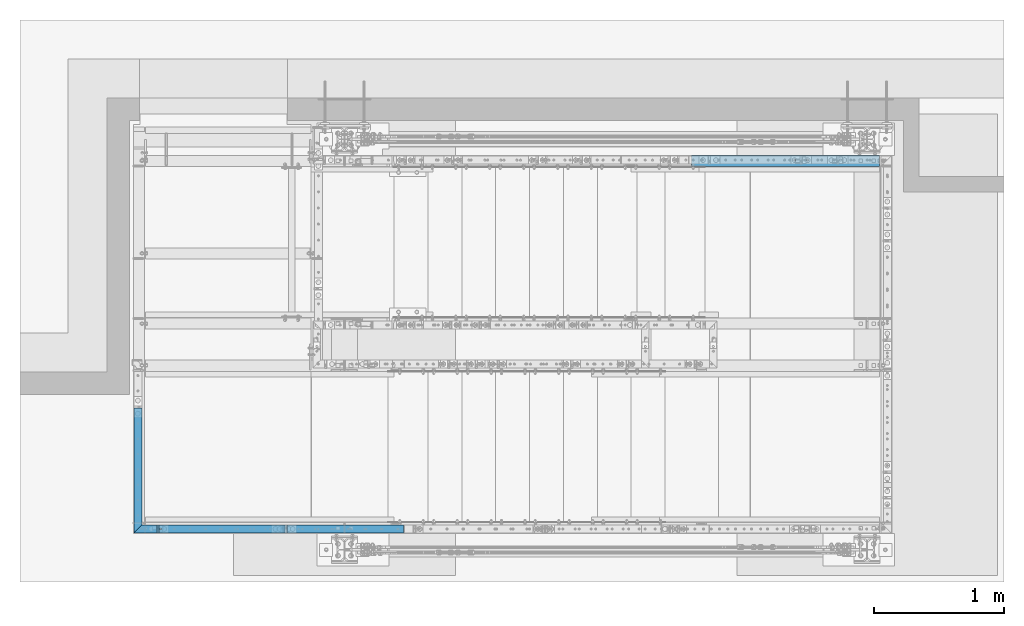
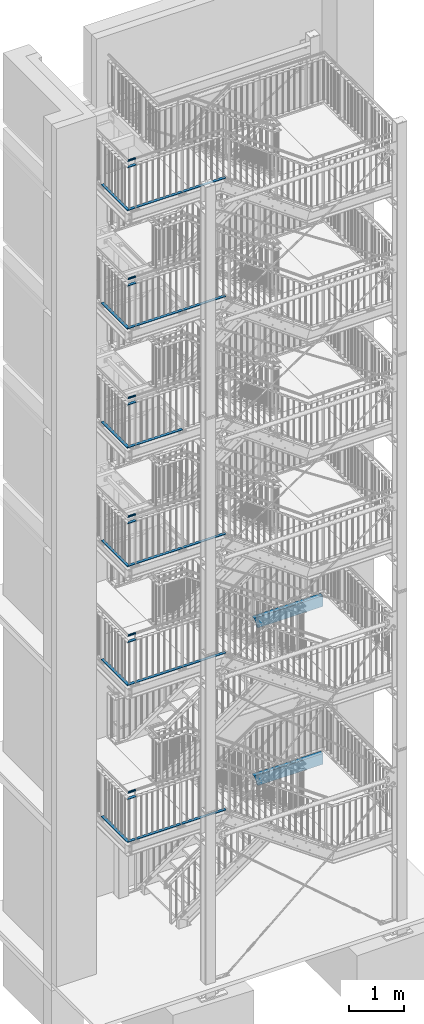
# One storey, part 134 of 831: 37 beams, 28 openings.
"""IFC2X3 building model written with IfcOpenShell, lengths in millimetres."""

from ifc_helpers import new_model, entity, si_unit, converted_unit, frame, frame_2d, origin, origin_with_axes, origin_2d, origin_2d_with_axis, place, context, project, spatial, polyline, rectangle, circle, hollow_circle, u_section, outline, extrude, clip, halfspace, material, element, save


model = new_model("IFC2X3")

# Units and contexts
model_context = context("Model", 3, precision=1e-09, world=origin_with_axes())
ifc_project = project(units=[si_unit("LENGTHUNIT", "METRE", prefix="MILLI"), si_unit("AREAUNIT", "SQUARE_METRE"), si_unit("VOLUMEUNIT", "CUBIC_METRE"), converted_unit("PLANEANGLEUNIT", "DEGREE", entity("IfcPlaneAngleMeasure", 0.01745329), si_unit("PLANEANGLEUNIT", "RADIAN"), dimensions=[0, 0, 0, 0, 0, 0, 0])], contexts=[model_context])

# Site, building, storey
site_placement = place(None, origin_with_axes())
site = spatial("IfcSite", under=ifc_project, at=site_placement, Name="Site", CompositionType="ELEMENT")
building_placement = place(site_placement, origin_with_axes())
building = spatial("IfcBuilding", under=site, at=building_placement, Name="Struktur 1", CompositionType="ELEMENT")
storey_placement = place(building_placement, origin_with_axes())
storey = spatial("IfcBuildingStorey", under=building, at=storey_placement, Name="Default Storey", CompositionType="ELEMENT", Elevation=0.0)

# Beam
ifc_material = material(Name="S235JR")
beam_1_placement = place(None, frame((5311.407355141, 4526.736971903, 15279.0), z_axis=(1.0, 0.0, 0.0), x_axis=(0.0, 0.0, -1.0)))
element("IfcBeam", 1, at=beam_1_placement, inside=storey, material=ifc_material, Name="Railing_Kneerail_Landing#18", ObjectType="Railing_Kneerail_Landing#18", context=model_context, shape_type="SweptSolid", body=[
    extrude(rectangle(XDim=10.0, YDim=60.0, at=origin_2d()), origin(), (0.0, 0.0, -1.0), 894.115666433),
])

# Beam, openings
beam_2_placement = place(None, frame((4402.291688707, 4526.736971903, 15279.0), z_axis=(1.0, 0.0, 0.0), x_axis=(0.0, 0.0, -1.0)))
beam_2 = element("IfcBeam", 2, at=beam_2_placement, inside=storey, material=ifc_material, Name="Railing_Kneerail_Landing#19", ObjectType="Railing_Kneerail_Landing#19", context=model_context, shape_type="SweptSolid", body=[
    extrude(rectangle(XDim=10.0, YDim=60.0, at=origin_2d()), origin(), (0.0, 0.0, -1.0), 967.000142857),
])
opening_1_placement = place(beam_2_placement, frame((60.0, 0.0, -967.000142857), z_axis=(-1.0, 0.0, 0.0), x_axis=(0.0, 0.0, 1.0)))
element("IfcOpeningElement", 3, at=opening_1_placement, cuts=beam_2, ObjectType="Opening", context=model_context, shape_type="SweptSolid", body=[
    extrude(outline(polyline([(977.499142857, 30.001), (977.499142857, -30.001), (992.501142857, -30.001), (992.501142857, 30.001), (977.499142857, 30.001)])), origin(), (0.0, 0.0, 1.0), 120.0),
])
opening_2_placement = place(beam_2_placement, frame((5.5, 0.0, -955.000142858), z_axis=(-1.0, 0.0, 0.0), x_axis=(0.0, 0.0, 1.0)))
element("IfcOpeningElement", 4, at=opening_2_placement, cuts=beam_2, ObjectType="Opening", context=model_context, shape_type="SweptSolid", body=[
    extrude(circle(Radius=5.001, at=origin_2d_with_axis()), origin(), (0.0, 0.0, 1.0), 11.0),
])

# Beam
beam_3_placement = place(None, frame((3417.29154585, 4526.736971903, 15279.0), z_axis=(1.0, 0.0, 0.0), x_axis=(0.0, 0.0, -1.0)))
element("IfcBeam", 5, at=beam_3_placement, inside=storey, material=ifc_material, Name="Railing_Kneerail_Landing#20", ObjectType="Railing_Kneerail_Landing#20", context=model_context, shape_type="Clipping", body=[
    clip(extrude(rectangle(XDim=10.0, YDim=60.0, at=origin_2d()), origin(), (0.0, 0.0, -1.0), 188.589769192), halfspace(frame((15279.0, -3899.225894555, -4044.802623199), z_axis=(0.0, -0.707106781, 0.707106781), x_axis=(0.0, 0.707106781, 0.707106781)), True)),
])

# Beam, opening
beam_4_placement = place(None, frame((3271.713402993, 4483.725345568, 15279.0), z_axis=(0.0, -1.0, 0.0), x_axis=(0.0, 0.0, -1.0)))
beam_4 = element("IfcBeam", 6, at=beam_4_placement, inside=storey, material=ifc_material, Name="Railing_Kneerail_Landing#21", ObjectType="Railing_Kneerail_Landing#21", context=model_context, shape_type="Clipping", body=[
    clip(extrude(rectangle(XDim=10.0, YDim=60.0, at=origin_2d()), origin(), (0.0, 0.0, -1.0), 978.013626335), halfspace(frame((15279.0, -3899.225894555, 3856.212854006), z_axis=(0.0, -0.707106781, -0.707106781), x_axis=(0.0, -0.707106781, 0.707106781)), True)),
])
opening_3_placement = place(beam_4_placement, frame((60.0, 0.0, -978.013626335), z_axis=(-1.0, 0.0, 0.0), x_axis=(0.0, 1.0, 0.0)))
element("IfcOpeningElement", 7, at=opening_3_placement, cuts=beam_4, ObjectType="Opening", context=model_context, shape_type="SweptSolid", body=[
    extrude(outline(polyline([(30.001, 7.501), (-30.001, 7.501), (-30.001, -7.501), (30.001, -7.501), (30.001, 7.501)])), origin(), (0.0, 0.0, 1.0), 120.0),
])

# Beam
beam_5_placement = place(None, frame((5311.633939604, 4526.736971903, 17899.0), z_axis=(1.0, 0.0, 0.0), x_axis=(0.0, 0.0, -1.0)))
element("IfcBeam", 8, at=beam_5_placement, inside=storey, material=ifc_material, Name="Railing_Kneerail_Landing#18", ObjectType="Railing_Kneerail_Landing#18", context=model_context, shape_type="SweptSolid", body=[
    extrude(rectangle(XDim=10.0, YDim=60.0, at=origin_2d()), origin(), (0.0, 0.0, -1.0), 894.342250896),
])

# Beam, openings
beam_6_placement = place(None, frame((4402.291688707, 4526.736971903, 17899.0), z_axis=(1.0, 0.0, 0.0), x_axis=(0.0, 0.0, -1.0)))
beam_6 = element("IfcBeam", 9, at=beam_6_placement, inside=storey, material=ifc_material, Name="Railing_Kneerail_Landing#19", ObjectType="Railing_Kneerail_Landing#19", context=model_context, shape_type="SweptSolid", body=[
    extrude(rectangle(XDim=10.0, YDim=60.0, at=origin_2d()), origin(), (0.0, 0.0, -1.0), 967.000142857),
])
opening_4_placement = place(beam_6_placement, frame((60.0, 0.0, -967.000142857), z_axis=(-1.0, 0.0, 0.0), x_axis=(0.0, 0.0, 1.0)))
element("IfcOpeningElement", 10, at=opening_4_placement, cuts=beam_6, ObjectType="Opening", context=model_context, shape_type="SweptSolid", body=[
    extrude(outline(polyline([(977.499142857, 30.001), (977.499142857, -30.001), (992.501142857, -30.001), (992.501142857, 30.001), (977.499142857, 30.001)])), origin(), (0.0, 0.0, 1.0), 120.0),
])
opening_5_placement = place(beam_6_placement, frame((5.5, 0.0, -955.000142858), z_axis=(-1.0, 0.0, 0.0), x_axis=(0.0, 0.0, 1.0)))
element("IfcOpeningElement", 11, at=opening_5_placement, cuts=beam_6, ObjectType="Opening", context=model_context, shape_type="SweptSolid", body=[
    extrude(circle(Radius=5.001, at=origin_2d_with_axis()), origin(), (0.0, 0.0, 1.0), 11.0),
])

# Beam
beam_7_placement = place(None, frame((3417.29154585, 4526.736971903, 17899.0), z_axis=(1.0, 0.0, 0.0), x_axis=(0.0, 0.0, -1.0)))
element("IfcBeam", 12, at=beam_7_placement, inside=storey, material=ifc_material, Name="Railing_Kneerail_Landing#20", ObjectType="Railing_Kneerail_Landing#20", context=model_context, shape_type="Clipping", body=[
    clip(extrude(rectangle(XDim=10.0, YDim=60.0, at=origin_2d()), origin(), (0.0, 0.0, -1.0), 188.589769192), halfspace(frame((17899.0, -3899.225894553, -4044.802623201), z_axis=(0.0, -0.707106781, 0.707106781), x_axis=(0.0, 0.707106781, 0.707106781)), True)),
])

# Beam, opening
beam_8_placement = place(None, frame((3271.713402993, 4483.725345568, 17899.0), z_axis=(0.0, -1.0, 0.0), x_axis=(0.0, 0.0, -1.0)))
beam_8 = element("IfcBeam", 13, at=beam_8_placement, inside=storey, material=ifc_material, Name="Railing_Kneerail_Landing#21", ObjectType="Railing_Kneerail_Landing#21", context=model_context, shape_type="Clipping", body=[
    clip(extrude(rectangle(XDim=10.0, YDim=60.0, at=origin_2d()), origin(), (0.0, 0.0, -1.0), 978.013626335), halfspace(frame((17898.999999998, -3899.225894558, 3856.212854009), z_axis=(0.0, -0.707106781, -0.707106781), x_axis=(0.0, -0.707106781, 0.707106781)), True)),
])
opening_6_placement = place(beam_8_placement, frame((60.0, 0.0, -978.013626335), z_axis=(-1.0, 0.0, 0.0), x_axis=(0.0, 1.0, 0.0)))
element("IfcOpeningElement", 14, at=opening_6_placement, cuts=beam_8, ObjectType="Opening", context=model_context, shape_type="SweptSolid", body=[
    extrude(outline(polyline([(30.001, 7.501), (-30.001, 7.501), (-30.001, -7.501), (30.001, -7.501), (30.001, 7.501)])), origin(), (0.0, 0.0, 1.0), 120.0),
])

# Beams
beam_9_placement = place(None, frame((3432.29154585, 4526.736971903, 18847.8), z_axis=(1.0, 0.0, 0.0), x_axis=(0.0, 0.0, -1.0)))
element("IfcBeam", 15, at=beam_9_placement, inside=storey, material=ifc_material, Name="Railing_Kneerail_Landing#1018", ObjectType="Railing_Kneerail_Landing#1018", context=model_context, shape_type="Clipping", body=[
    clip(extrude(rectangle(XDim=10.0, YDim=60.0, at=origin_2d()), origin(), (0.0, 0.0, -1.0), 203.589769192), halfspace(frame((18847.8, -3899.225894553, -4059.802623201), z_axis=(0.0, -0.707106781, 0.707106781), x_axis=(0.0, 0.707106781, 0.707106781)), True)),
])
beam_10_placement = place(None, frame((3432.29154585, 4535.536971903, 18974.0), z_axis=(1.0, 0.0, 0.0), x_axis=(0.0, 0.0, -1.0)))
element("IfcBeam", 16, at=beam_10_placement, inside=storey, material=ifc_material, Name="Railing_Handrail_Landing#8", ObjectType="Railing_Handrail_Landing#8", context=model_context, shape_type="Clipping", body=[
    clip(extrude(hollow_circle(Radius=21.2, WallThickness=3.2, at=origin_2d()), origin(), (0.0, 0.0, -1.0), 194.178142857), halfspace(frame((18974.0, -3908.025894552, -4059.802623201), z_axis=(0.0, -0.707106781, 0.707106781), x_axis=(0.0, 0.707106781, 0.707106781)), True)),
])
beam_11_placement = place(None, frame((3432.29154585, 4526.736971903, 16227.8), z_axis=(1.0, 0.0, 0.0), x_axis=(0.0, 0.0, -1.0)))
element("IfcBeam", 17, at=beam_11_placement, inside=storey, material=ifc_material, Name="Railing_Kneerail_Landing#1020", ObjectType="Railing_Kneerail_Landing#1020", context=model_context, shape_type="Clipping", body=[
    clip(extrude(rectangle(XDim=10.0, YDim=60.0, at=origin_2d()), origin(), (0.0, 0.0, -1.0), 203.589769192), halfspace(frame((16227.8, -3899.225894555, -4059.802623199), z_axis=(0.0, -0.707106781, 0.707106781), x_axis=(0.0, 0.707106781, 0.707106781)), True)),
])
beam_12_placement = place(None, frame((3432.29154585, 4535.536971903, 16354.0), z_axis=(1.0, 0.0, 0.0), x_axis=(0.0, 0.0, -1.0)))
element("IfcBeam", 18, at=beam_12_placement, inside=storey, material=ifc_material, Name="Railing_Handrail_Landing#8", ObjectType="Railing_Handrail_Landing#8", context=model_context, shape_type="Clipping", body=[
    clip(extrude(hollow_circle(Radius=21.2, WallThickness=3.2, at=origin_2d()), origin(), (0.0, 0.0, -1.0), 194.178142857), halfspace(frame((16354.0, -3908.025894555, -4059.802623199), z_axis=(0.0, -0.707106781, 0.707106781), x_axis=(0.0, 0.707106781, 0.707106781)), True)),
])
beam_13_placement = place(None, frame((3432.29154585, 4526.736971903, 13592.8), z_axis=(1.0, 0.0, 0.0), x_axis=(0.0, 0.0, -1.0)))
element("IfcBeam", 19, at=beam_13_placement, inside=storey, material=ifc_material, Name="Railing_Kneerail_Landing#1018", ObjectType="Railing_Kneerail_Landing#1018", context=model_context, shape_type="Clipping", body=[
    clip(extrude(rectangle(XDim=10.0, YDim=60.0, at=origin_2d()), origin(), (0.0, 0.0, -1.0), 203.589769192), halfspace(frame((13592.8, -3899.225894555, -4059.802623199), z_axis=(0.0, -0.707106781, 0.707106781), x_axis=(0.0, 0.707106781, 0.707106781)), True)),
])
beam_14_placement = place(None, frame((3432.29154585, 4535.536971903, 13719.0), z_axis=(1.0, 0.0, 0.0), x_axis=(0.0, 0.0, -1.0)))
element("IfcBeam", 20, at=beam_14_placement, inside=storey, material=ifc_material, Name="Railing_Handrail_Landing#8", ObjectType="Railing_Handrail_Landing#8", context=model_context, shape_type="Clipping", body=[
    clip(extrude(hollow_circle(Radius=21.2, WallThickness=3.2, at=origin_2d()), origin(), (0.0, 0.0, -1.0), 194.178142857), halfspace(frame((13719.0, -3908.025894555, -4059.802623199), z_axis=(0.0, -0.707106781, 0.707106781), x_axis=(0.0, 0.707106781, 0.707106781)), True)),
])
beam_15_placement = place(None, frame((3432.29154585, 4526.736971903, 10965.8), z_axis=(1.0, 0.0, 0.0), x_axis=(0.0, 0.0, -1.0)))
element("IfcBeam", 21, at=beam_15_placement, inside=storey, material=ifc_material, Name="Railing_Kneerail_Landing#1020", ObjectType="Railing_Kneerail_Landing#1020", context=model_context, shape_type="Clipping", body=[
    clip(extrude(rectangle(XDim=10.0, YDim=60.0, at=origin_2d()), origin(), (0.0, 0.0, -1.0), 203.589769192), halfspace(frame((10965.8, -3899.225894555, -4059.802623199), z_axis=(0.0, -0.707106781, 0.707106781), x_axis=(0.0, 0.707106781, 0.707106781)), True)),
])
beam_16_placement = place(None, frame((3432.29154585, 4535.536971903, 11092.0), z_axis=(1.0, 0.0, 0.0), x_axis=(0.0, 0.0, -1.0)))
element("IfcBeam", 22, at=beam_16_placement, inside=storey, material=ifc_material, Name="Railing_Handrail_Landing#8", ObjectType="Railing_Handrail_Landing#8", context=model_context, shape_type="Clipping", body=[
    clip(extrude(hollow_circle(Radius=21.2, WallThickness=3.2, at=origin_2d()), origin(), (0.0, 0.0, -1.0), 194.178142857), halfspace(frame((11092.0, -3908.025894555, -4059.802623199), z_axis=(0.0, -0.707106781, 0.707106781), x_axis=(0.0, 0.707106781, 0.707106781)), True)),
])
beam_17_placement = place(None, frame((3432.29154585, 4526.736971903, 8333.8), z_axis=(1.0, 0.0, 0.0), x_axis=(0.0, 0.0, -1.0)))
element("IfcBeam", 23, at=beam_17_placement, inside=storey, material=ifc_material, Name="Railing_Kneerail_Landing#1018", ObjectType="Railing_Kneerail_Landing#1018", context=model_context, shape_type="Clipping", body=[
    clip(extrude(rectangle(XDim=10.0, YDim=60.0, at=origin_2d()), origin(), (0.0, 0.0, -1.0), 203.589769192), halfspace(frame((8333.8, -3899.225894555, -4059.802623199), z_axis=(0.0, -0.707106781, 0.707106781), x_axis=(0.0, 0.707106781, 0.707106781)), True)),
])
beam_18_placement = place(None, frame((3432.29154585, 4535.536971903, 8460.0), z_axis=(1.0, 0.0, 0.0), x_axis=(0.0, 0.0, -1.0)))
element("IfcBeam", 24, at=beam_18_placement, inside=storey, material=ifc_material, Name="Railing_Handrail_Landing#8", ObjectType="Railing_Handrail_Landing#8", context=model_context, shape_type="Clipping", body=[
    clip(extrude(hollow_circle(Radius=21.2, WallThickness=3.2, at=origin_2d()), origin(), (0.0, 0.0, -1.0), 194.178142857), halfspace(frame((8460.0, -3908.025894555, -4059.802623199), z_axis=(0.0, -0.707106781, 0.707106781), x_axis=(0.0, 0.707106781, 0.707106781)), True)),
])
beam_19_placement = place(None, frame((3432.288520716, 4526.736971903, 4860.8), z_axis=(1.0, 0.0, 0.0), x_axis=(0.0, 0.0, -1.0)))
element("IfcBeam", 25, at=beam_19_placement, inside=storey, material=ifc_material, Name="Railing_Kneerail_Landing#1018", ObjectType="Railing_Kneerail_Landing#1018", context=model_context, shape_type="Clipping", body=[
    clip(extrude(rectangle(XDim=10.0, YDim=60.0, at=origin_2d()), origin(), (0.0, 0.0, -1.0), 203.586744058), halfspace(frame((4860.8, -3899.225894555, -4059.799598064), z_axis=(0.0, -0.707106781, 0.707106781), x_axis=(0.0, 0.707106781, 0.707106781)), True)),
])
beam_20_placement = place(None, frame((3432.288520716, 4535.536971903, 4987.0), z_axis=(1.0, 0.0, 0.0), x_axis=(0.0, 0.0, -1.0)))
element("IfcBeam", 26, at=beam_20_placement, inside=storey, material=ifc_material, Name="Railing_Handrail_Landing#7", ObjectType="Railing_Handrail_Landing#7", context=model_context, shape_type="Clipping", body=[
    clip(extrude(hollow_circle(Radius=21.2, WallThickness=3.2, at=origin_2d()), origin(), (0.0, 0.0, -1.0), 194.175117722), halfspace(frame((4987.0, -3908.025894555, -4059.799598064), z_axis=(0.0, -0.707106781, 0.707106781), x_axis=(0.0, 0.707106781, 0.707106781)), True)),
])
beam_21_placement = place(None, frame((5312.074200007, 4526.736971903, 3912.0), z_axis=(1.0, 0.0, 0.0), x_axis=(0.0, 0.0, -1.0)))
element("IfcBeam", 27, at=beam_21_placement, inside=storey, material=ifc_material, Name="Railing_Kneerail_Landing#16", ObjectType="Railing_Kneerail_Landing#16", context=model_context, shape_type="SweptSolid", body=[
    extrude(rectangle(XDim=10.0, YDim=60.0, at=origin_2d()), origin(), (0.0, 0.0, -1.0), 926.708561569),
])

# Beam, openings
beam_22_placement = place(None, frame((4370.365638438, 4526.736971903, 3912.0), z_axis=(1.0, 0.0, 0.0), x_axis=(0.0, 0.0, -1.0)))
beam_22 = element("IfcBeam", 28, at=beam_22_placement, inside=storey, material=ifc_material, Name="Railing_Kneerail_Landing#17", ObjectType="Railing_Kneerail_Landing#17", context=model_context, shape_type="SweptSolid", body=[
    extrude(rectangle(XDim=10.0, YDim=60.0, at=origin_2d()), origin(), (0.0, 0.0, -1.0), 935.077117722),
])
opening_7_placement = place(beam_22_placement, frame((60.0, 0.0, -935.077117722), z_axis=(-1.0, 0.0, 0.0), x_axis=(0.0, 0.0, 1.0)))
element("IfcOpeningElement", 29, at=opening_7_placement, cuts=beam_22, ObjectType="Opening", context=model_context, shape_type="SweptSolid", body=[
    extrude(outline(polyline([(945.576117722, 30.001), (945.576117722, -30.001), (960.578117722, -30.001), (960.578117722, 30.001), (945.576117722, 30.001)])), origin(), (0.0, 0.0, 1.0), 120.0),
])
opening_8_placement = place(beam_22_placement, frame((5.5, 0.0, -923.077117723), z_axis=(-1.0, 0.0, 0.0), x_axis=(0.0, 0.0, 1.0)))
element("IfcOpeningElement", 30, at=opening_8_placement, cuts=beam_22, ObjectType="Opening", context=model_context, shape_type="SweptSolid", body=[
    extrude(circle(Radius=5.001, at=origin_2d_with_axis()), origin(), (0.0, 0.0, 1.0), 11.0),
])

# Beam
beam_23_placement = place(None, frame((3417.288520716, 4526.736971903, 3912.0), z_axis=(1.0, 0.0, 0.0), x_axis=(0.0, 0.0, -1.0)))
element("IfcBeam", 31, at=beam_23_placement, inside=storey, material=ifc_material, Name="Railing_Kneerail_Landing#18", ObjectType="Railing_Kneerail_Landing#18", context=model_context, shape_type="Clipping", body=[
    clip(extrude(rectangle(XDim=10.0, YDim=60.0, at=origin_2d()), origin(), (0.0, 0.0, -1.0), 188.586744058), halfspace(frame((3912.0, -3899.225894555, -4044.799598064), z_axis=(0.0, -0.707106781, 0.707106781), x_axis=(0.0, 0.707106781, 0.707106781)), True)),
])

# Beam, opening
beam_24_placement = place(None, frame((3271.713402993, 4483.725345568, 3912.0), z_axis=(0.0, -1.0, 0.0), x_axis=(0.0, 0.0, -1.0)))
beam_24 = element("IfcBeam", 32, at=beam_24_placement, inside=storey, material=ifc_material, Name="Railing_Kneerail_Landing#19", ObjectType="Railing_Kneerail_Landing#19", context=model_context, shape_type="Clipping", body=[
    clip(extrude(rectangle(XDim=10.0, YDim=60.0, at=origin_2d()), origin(), (0.0, 0.0, -1.0), 978.013626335), halfspace(frame((3912.0, -3899.225894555, 3856.212854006), z_axis=(0.0, -0.707106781, -0.707106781), x_axis=(0.0, -0.707106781, 0.707106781)), True)),
])
opening_9_placement = place(beam_24_placement, frame((60.0, 0.0, -978.013626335), z_axis=(-1.0, 0.0, 0.0), x_axis=(0.0, 1.0, 0.0)))
element("IfcOpeningElement", 33, at=opening_9_placement, cuts=beam_24, ObjectType="Opening", context=model_context, shape_type="SweptSolid", body=[
    extrude(outline(polyline([(30.001, 7.501), (-30.001, 7.501), (-30.001, -7.501), (30.001, -7.501), (30.001, 7.501)])), origin(), (0.0, 0.0, 1.0), 120.0),
])

# Beam, openings
beam_25_placement = place(None, frame((7260.434507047, 7329.036971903, 5554.8947367), z_axis=(1.0, 0.0, 0.0), x_axis=(0.0, 1.0, 0.0)))
beam_25 = element("IfcBeam", 34, at=beam_25_placement, inside=storey, material=ifc_material, Name="Stringer", ObjectType="Stringer", context=model_context, shape_type="Clipping", body=[
    clip(clip(extrude(u_section(Depth=240.0, FlangeWidth=85.0, WebThickness=9.5, FlangeThickness=13.0, FilletRadius=13.0, EdgeRadius=6.5, FlangeSlope=4.574, at=frame_2d((20.2, 0.0))), origin(), (0.0, 0.0, 1.0), 1958.582666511), halfspace(frame((-7329.036971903, -5554.8947367, 1701.277895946), z_axis=(0.0, 0.0, -1.0), x_axis=(-1.0, 0.0, 0.0)), True)), halfspace(frame((-7329.036971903, -2876.228700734, 1207.214407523), z_axis=(0.0, 0.301609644, 0.953431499), x_axis=(1.0, 0.0, 0.0)), True)),
])
opening_10_placement = place(beam_25_placement, frame((27.7, 120.5, 1424.278467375), z_axis=(0.0, 1.0, 0.0), x_axis=(-1.0, 0.0, 0.0)))
element("IfcOpeningElement", 35, at=opening_10_placement, cuts=beam_25, ObjectType="Opening", context=model_context, shape_type="SweptSolid", body=[
    extrude(circle(Radius=7.001, at=frame_2d((0.0, 7.001), x_axis=(1.0, 0.0))), origin(), (0.0, 0.0, -1.0), 14.0),
])
opening_11_placement = place(beam_25_placement, frame((27.7, 120.5, 1324.278467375), z_axis=(0.0, 1.0, 0.0), x_axis=(-1.0, 0.0, 0.0)))
element("IfcOpeningElement", 36, at=opening_11_placement, cuts=beam_25, ObjectType="Opening", context=model_context, shape_type="SweptSolid", body=[
    extrude(circle(Radius=7.001, at=frame_2d((0.0, 7.001), x_axis=(1.0, 0.0))), origin(), (0.0, 0.0, -1.0), 14.0),
])
opening_12_placement = place(beam_25_placement, frame((27.7, 120.5, 439.278324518), z_axis=(0.0, 1.0, 0.0), x_axis=(-1.0, 0.0, 0.0)))
element("IfcOpeningElement", 37, at=opening_12_placement, cuts=beam_25, ObjectType="Opening", context=model_context, shape_type="SweptSolid", body=[
    extrude(circle(Radius=7.001, at=frame_2d((0.0, 7.001), x_axis=(1.0, 0.0))), origin(), (0.0, 0.0, -1.0), 14.0),
])
opening_13_placement = place(beam_25_placement, frame((27.7, 120.5, 339.278324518), z_axis=(0.0, 1.0, 0.0), x_axis=(-1.0, 0.0, 0.0)))
element("IfcOpeningElement", 38, at=opening_13_placement, cuts=beam_25, ObjectType="Opening", context=model_context, shape_type="SweptSolid", body=[
    extrude(circle(Radius=7.001, at=frame_2d((0.0, 7.001), x_axis=(1.0, 0.0))), origin(), (0.0, 0.0, -1.0), 14.0),
])
opening_14_placement = place(beam_25_placement, frame((22.7, -120.5, 1656.278895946), z_axis=(0.0, 1.0, 0.0), x_axis=(1.0, 0.0, 0.0)))
element("IfcOpeningElement", 39, at=opening_14_placement, cuts=beam_25, ObjectType="Opening", context=model_context, shape_type="SweptSolid", body=[
    extrude(circle(Radius=7.001, at=origin_2d_with_axis()), origin(), (0.0, 0.0, 1.0), 14.0),
])
opening_15_placement = place(beam_25_placement, frame((22.7, -120.5, 1556.278895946), z_axis=(0.0, 1.0, 0.0), x_axis=(1.0, 0.0, 0.0)))
element("IfcOpeningElement", 40, at=opening_15_placement, cuts=beam_25, ObjectType="Opening", context=model_context, shape_type="SweptSolid", body=[
    extrude(circle(Radius=7.001, at=origin_2d_with_axis()), origin(), (0.0, 0.0, 1.0), 14.0),
])

beam_26_placement = place(None, frame((7260.901415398, 7329.036971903, 2061.0526312), z_axis=(1.0, 0.0, 0.0), x_axis=(0.0, 1.0, 0.0)))
beam_26 = element("IfcBeam", 41, at=beam_26_placement, inside=storey, material=ifc_material, Name="Stringer", ObjectType="Stringer", context=model_context, shape_type="Clipping", body=[
    clip(clip(extrude(u_section(Depth=240.0, FlangeWidth=85.0, WebThickness=9.5, FlangeThickness=13.0, FilletRadius=13.0, EdgeRadius=6.5, FlangeSlope=4.574, at=frame_2d((20.2, 0.0))), origin(), (0.0, 0.0, 1.0), 1958.11575816), halfspace(frame((-7329.036971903, -2061.0526312, 1700.810987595), z_axis=(0.0, 0.0, -1.0), x_axis=(-1.0, 0.0, 0.0)), True)), halfspace(frame((-7329.036971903, 321.948595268, 195.084170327), z_axis=(0.0, 0.304437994, 0.952532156), x_axis=(1.0, 0.0, 0.0)), True)),
])
opening_16_placement = place(beam_26_placement, frame((27.7, 120.5, 1143.041810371), z_axis=(0.0, 1.0, 0.0), x_axis=(-1.0, 0.0, 0.0)))
element("IfcOpeningElement", 42, at=opening_16_placement, cuts=beam_26, ObjectType="Opening", context=model_context, shape_type="SweptSolid", body=[
    extrude(circle(Radius=7.001, at=frame_2d((0.0, 7.001), x_axis=(1.0, 0.0))), origin(), (0.0, 0.0, -1.0), 14.0),
])
opening_17_placement = place(beam_26_placement, frame((27.7, 120.5, 1043.041810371), z_axis=(0.0, 1.0, 0.0), x_axis=(-1.0, 0.0, 0.0)))
element("IfcOpeningElement", 43, at=opening_17_placement, cuts=beam_26, ObjectType="Opening", context=model_context, shape_type="SweptSolid", body=[
    extrude(circle(Radius=7.001, at=frame_2d((0.0, 7.001), x_axis=(1.0, 0.0))), origin(), (0.0, 0.0, -1.0), 14.0),
])
opening_18_placement = place(beam_26_placement, frame((22.7, -120.5, 1555.811987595), z_axis=(0.0, 1.0, 0.0), x_axis=(1.0, 0.0, 0.0)))
element("IfcOpeningElement", 44, at=opening_18_placement, cuts=beam_26, ObjectType="Opening", context=model_context, shape_type="SweptSolid", body=[
    extrude(circle(Radius=7.001, at=origin_2d_with_axis()), origin(), (0.0, 0.0, 1.0), 14.0),
])
opening_19_placement = place(beam_26_placement, frame((22.7, -120.5, 1655.811987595), z_axis=(0.0, 1.0, 0.0), x_axis=(1.0, 0.0, 0.0)))
element("IfcOpeningElement", 45, at=opening_19_placement, cuts=beam_26, ObjectType="Opening", context=model_context, shape_type="SweptSolid", body=[
    extrude(circle(Radius=7.001, at=origin_2d_with_axis()), origin(), (0.0, 0.0, 1.0), 14.0),
])

# Beam
beam_27_placement = place(None, frame((5312.589928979, 4526.736971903, 7385.0), z_axis=(1.0, 0.0, 0.0), x_axis=(0.0, 0.0, -1.0)))
element("IfcBeam", 46, at=beam_27_placement, inside=storey, material=ifc_material, Name="Railing_Kneerail_Landing#18", ObjectType="Railing_Kneerail_Landing#18", context=model_context, shape_type="SweptSolid", body=[
    extrude(rectangle(XDim=10.0, YDim=60.0, at=origin_2d()), origin(), (0.0, 0.0, -1.0), 895.298240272),
])

# Beam, openings
beam_28_placement = place(None, frame((4402.291688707, 4526.736971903, 7385.0), z_axis=(1.0, 0.0, 0.0), x_axis=(0.0, 0.0, -1.0)))
beam_28 = element("IfcBeam", 47, at=beam_28_placement, inside=storey, material=ifc_material, Name="Railing_Kneerail_Landing#19", ObjectType="Railing_Kneerail_Landing#19", context=model_context, shape_type="SweptSolid", body=[
    extrude(rectangle(XDim=10.0, YDim=60.0, at=origin_2d()), origin(), (0.0, 0.0, -1.0), 967.000142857),
])
opening_20_placement = place(beam_28_placement, frame((60.0, 0.0, -967.000142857), z_axis=(-1.0, 0.0, 0.0), x_axis=(0.0, 0.0, 1.0)))
element("IfcOpeningElement", 48, at=opening_20_placement, cuts=beam_28, ObjectType="Opening", context=model_context, shape_type="SweptSolid", body=[
    extrude(outline(polyline([(977.499142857, 30.001), (977.499142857, -30.001), (992.501142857, -30.001), (992.501142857, 30.001), (977.499142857, 30.001)])), origin(), (0.0, 0.0, 1.0), 120.0),
])
opening_21_placement = place(beam_28_placement, frame((5.5, 0.0, -955.000142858), z_axis=(-1.0, 0.0, 0.0), x_axis=(0.0, 0.0, 1.0)))
element("IfcOpeningElement", 49, at=opening_21_placement, cuts=beam_28, ObjectType="Opening", context=model_context, shape_type="SweptSolid", body=[
    extrude(circle(Radius=5.001, at=origin_2d_with_axis()), origin(), (0.0, 0.0, 1.0), 11.0),
])

# Beam
beam_29_placement = place(None, frame((3417.29154585, 4526.736971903, 7385.0), z_axis=(1.0, 0.0, 0.0), x_axis=(0.0, 0.0, -1.0)))
element("IfcBeam", 50, at=beam_29_placement, inside=storey, material=ifc_material, Name="Railing_Kneerail_Landing#20", ObjectType="Railing_Kneerail_Landing#20", context=model_context, shape_type="Clipping", body=[
    clip(extrude(rectangle(XDim=10.0, YDim=60.0, at=origin_2d()), origin(), (0.0, 0.0, -1.0), 188.589769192), halfspace(frame((7385.0, -3899.225894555, -4044.802623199), z_axis=(0.0, -0.707106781, 0.707106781), x_axis=(0.0, 0.707106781, 0.707106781)), True)),
])

# Beam, opening
beam_30_placement = place(None, frame((3271.713402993, 4483.725345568, 7385.0), z_axis=(0.0, -1.0, 0.0), x_axis=(0.0, 0.0, -1.0)))
beam_30 = element("IfcBeam", 51, at=beam_30_placement, inside=storey, material=ifc_material, Name="Railing_Kneerail_Landing#21", ObjectType="Railing_Kneerail_Landing#21", context=model_context, shape_type="Clipping", body=[
    clip(extrude(rectangle(XDim=10.0, YDim=60.0, at=origin_2d()), origin(), (0.0, 0.0, -1.0), 978.013626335), halfspace(frame((7385.0, -3899.225894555, 3856.212854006), z_axis=(0.0, -0.707106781, -0.707106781), x_axis=(0.0, -0.707106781, 0.707106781)), True)),
])
opening_22_placement = place(beam_30_placement, frame((60.0, 0.0, -978.013626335), z_axis=(-1.0, 0.0, 0.0), x_axis=(0.0, 1.0, 0.0)))
element("IfcOpeningElement", 52, at=opening_22_placement, cuts=beam_30, ObjectType="Opening", context=model_context, shape_type="SweptSolid", body=[
    extrude(outline(polyline([(30.001, 7.501), (-30.001, 7.501), (-30.001, -7.501), (30.001, -7.501), (30.001, 7.501)])), origin(), (0.0, 0.0, 1.0), 120.0),
])

# Beam
beam_31_placement = place(None, frame((5311.45240536, 4526.736971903, 10017.0), z_axis=(1.0, 0.0, 0.0), x_axis=(0.0, 0.0, -1.0)))
element("IfcBeam", 53, at=beam_31_placement, inside=storey, material=ifc_material, Name="Railing_Kneerail_Landing#18", ObjectType="Railing_Kneerail_Landing#18", context=model_context, shape_type="SweptSolid", body=[
    extrude(rectangle(XDim=10.0, YDim=60.0, at=origin_2d()), origin(), (0.0, 0.0, -1.0), 894.160716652),
])

# Beam, openings
beam_32_placement = place(None, frame((4402.291688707, 4526.736971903, 10017.0), z_axis=(1.0, 0.0, 0.0), x_axis=(0.0, 0.0, -1.0)))
beam_32 = element("IfcBeam", 54, at=beam_32_placement, inside=storey, material=ifc_material, Name="Railing_Kneerail_Landing#19", ObjectType="Railing_Kneerail_Landing#19", context=model_context, shape_type="SweptSolid", body=[
    extrude(rectangle(XDim=10.0, YDim=60.0, at=origin_2d()), origin(), (0.0, 0.0, -1.0), 967.000142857),
])
opening_23_placement = place(beam_32_placement, frame((60.0, 0.0, -967.000142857), z_axis=(-1.0, 0.0, 0.0), x_axis=(0.0, 0.0, 1.0)))
element("IfcOpeningElement", 55, at=opening_23_placement, cuts=beam_32, ObjectType="Opening", context=model_context, shape_type="SweptSolid", body=[
    extrude(outline(polyline([(977.499142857, 30.001), (977.499142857, -30.001), (992.501142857, -30.001), (992.501142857, 30.001), (977.499142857, 30.001)])), origin(), (0.0, 0.0, 1.0), 120.0),
])
opening_24_placement = place(beam_32_placement, frame((5.5, 0.0, -955.000142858), z_axis=(-1.0, 0.0, 0.0), x_axis=(0.0, 0.0, 1.0)))
element("IfcOpeningElement", 56, at=opening_24_placement, cuts=beam_32, ObjectType="Opening", context=model_context, shape_type="SweptSolid", body=[
    extrude(circle(Radius=5.001, at=origin_2d_with_axis()), origin(), (0.0, 0.0, 1.0), 11.0),
])

# Beam
beam_33_placement = place(None, frame((3417.29154585, 4526.736971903, 10017.0), z_axis=(1.0, 0.0, 0.0), x_axis=(0.0, 0.0, -1.0)))
element("IfcBeam", 57, at=beam_33_placement, inside=storey, material=ifc_material, Name="Railing_Kneerail_Landing#20", ObjectType="Railing_Kneerail_Landing#20", context=model_context, shape_type="Clipping", body=[
    clip(extrude(rectangle(XDim=10.0, YDim=60.0, at=origin_2d()), origin(), (0.0, 0.0, -1.0), 188.589769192), halfspace(frame((10017.0, -3899.225894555, -4044.802623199), z_axis=(0.0, -0.707106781, 0.707106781), x_axis=(0.0, 0.707106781, 0.707106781)), True)),
])

# Beam, opening
beam_34_placement = place(None, frame((3271.713402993, 4483.725345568, 10017.0), z_axis=(0.0, -1.0, 0.0), x_axis=(0.0, 0.0, -1.0)))
beam_34 = element("IfcBeam", 58, at=beam_34_placement, inside=storey, material=ifc_material, Name="Railing_Kneerail_Landing#21", ObjectType="Railing_Kneerail_Landing#21", context=model_context, shape_type="Clipping", body=[
    clip(extrude(rectangle(XDim=10.0, YDim=60.0, at=origin_2d()), origin(), (0.0, 0.0, -1.0), 978.013626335), halfspace(frame((10017.0, -3899.225894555, 3856.212854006), z_axis=(0.0, -0.707106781, -0.707106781), x_axis=(0.0, -0.707106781, 0.707106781)), True)),
])
opening_25_placement = place(beam_34_placement, frame((60.0, 0.0, -978.013626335), z_axis=(-1.0, 0.0, 0.0), x_axis=(0.0, 1.0, 0.0)))
element("IfcOpeningElement", 59, at=opening_25_placement, cuts=beam_34, ObjectType="Opening", context=model_context, shape_type="SweptSolid", body=[
    extrude(outline(polyline([(30.001, 7.501), (-30.001, 7.501), (-30.001, -7.501), (30.001, -7.501), (30.001, 7.501)])), origin(), (0.0, 0.0, 1.0), 120.0),
])

# Beam, openings
beam_35_placement = place(None, frame((4402.291688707, 4526.736971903, 12644.0), z_axis=(1.0, 0.0, 0.0), x_axis=(0.0, 0.0, -1.0)))
beam_35 = element("IfcBeam", 60, at=beam_35_placement, inside=storey, material=ifc_material, Name="Railing_Kneerail_Landing#19", ObjectType="Railing_Kneerail_Landing#19", context=model_context, shape_type="SweptSolid", body=[
    extrude(rectangle(XDim=10.0, YDim=60.0, at=origin_2d()), origin(), (0.0, 0.0, -1.0), 967.000142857),
])
opening_26_placement = place(beam_35_placement, frame((60.0, 0.0, -967.000142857), z_axis=(-1.0, 0.0, 0.0), x_axis=(0.0, 0.0, 1.0)))
element("IfcOpeningElement", 61, at=opening_26_placement, cuts=beam_35, ObjectType="Opening", context=model_context, shape_type="SweptSolid", body=[
    extrude(outline(polyline([(977.499142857, 30.001), (977.499142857, -30.001), (992.501142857, -30.001), (992.501142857, 30.001), (977.499142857, 30.001)])), origin(), (0.0, 0.0, 1.0), 120.0),
])
opening_27_placement = place(beam_35_placement, frame((5.5, 0.0, -955.000142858), z_axis=(-1.0, 0.0, 0.0), x_axis=(0.0, 0.0, 1.0)))
element("IfcOpeningElement", 62, at=opening_27_placement, cuts=beam_35, ObjectType="Opening", context=model_context, shape_type="SweptSolid", body=[
    extrude(circle(Radius=5.001, at=origin_2d_with_axis()), origin(), (0.0, 0.0, 1.0), 11.0),
])

# Beam
beam_36_placement = place(None, frame((3417.29154585, 4526.736971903, 12644.0), z_axis=(1.0, 0.0, 0.0), x_axis=(0.0, 0.0, -1.0)))
element("IfcBeam", 63, at=beam_36_placement, inside=storey, material=ifc_material, Name="Railing_Kneerail_Landing#20", ObjectType="Railing_Kneerail_Landing#20", context=model_context, shape_type="Clipping", body=[
    clip(extrude(rectangle(XDim=10.0, YDim=60.0, at=origin_2d()), origin(), (0.0, 0.0, -1.0), 188.589769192), halfspace(frame((12644.0, -3899.225894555, -4044.802623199), z_axis=(0.0, -0.707106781, 0.707106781), x_axis=(0.0, 0.707106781, 0.707106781)), True)),
])

# Beam, opening
beam_37_placement = place(None, frame((3271.713402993, 4483.725345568, 12644.0), z_axis=(0.0, -1.0, 0.0), x_axis=(0.0, 0.0, -1.0)))
beam_37 = element("IfcBeam", 64, at=beam_37_placement, inside=storey, material=ifc_material, Name="Railing_Kneerail_Landing#21", ObjectType="Railing_Kneerail_Landing#21", context=model_context, shape_type="Clipping", body=[
    clip(extrude(rectangle(XDim=10.0, YDim=60.0, at=origin_2d()), origin(), (0.0, 0.0, -1.0), 978.013626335), halfspace(frame((12644.0, -3899.225894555, 3856.212854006), z_axis=(0.0, -0.707106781, -0.707106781), x_axis=(0.0, -0.707106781, 0.707106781)), True)),
])
opening_28_placement = place(beam_37_placement, frame((60.0, 0.0, -978.013626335), z_axis=(-1.0, 0.0, 0.0), x_axis=(0.0, 1.0, 0.0)))
element("IfcOpeningElement", 65, at=opening_28_placement, cuts=beam_37, ObjectType="Opening", context=model_context, shape_type="SweptSolid", body=[
    extrude(outline(polyline([(30.001, 7.501), (-30.001, 7.501), (-30.001, -7.501), (30.001, -7.501), (30.001, 7.501)])), origin(), (0.0, 0.0, 1.0), 120.0),
])

save(model, "model.ifc")
